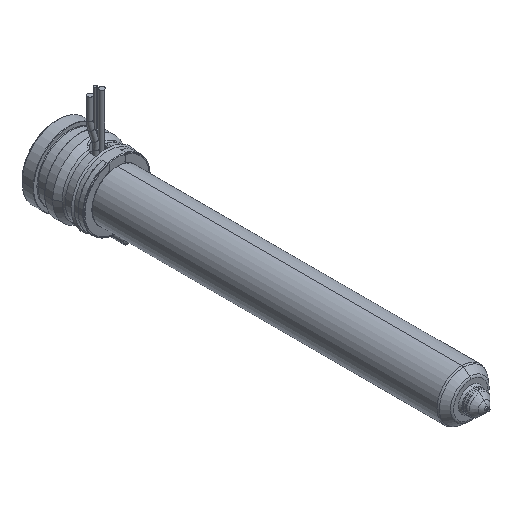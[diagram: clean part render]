
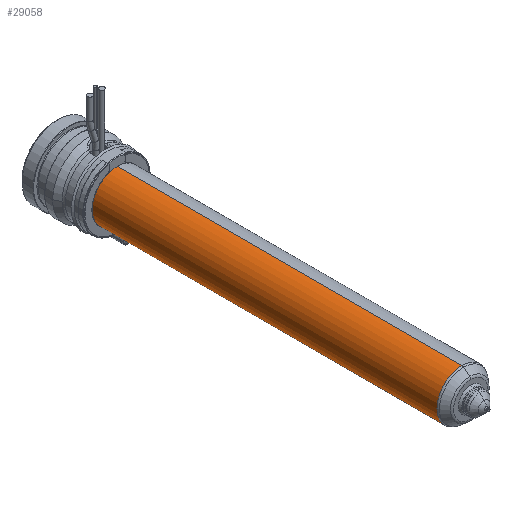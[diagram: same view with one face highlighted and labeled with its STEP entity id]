
A CAD part, isometric view. The second image highlights one B-rep face of the part: STEP entity #29058.
In plain terms, the highlighted cylindrical face has radius 9 mm (diameter 18 mm), a partial arc.
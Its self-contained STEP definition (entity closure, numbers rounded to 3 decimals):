
#28447=CARTESIAN_POINT('',(0.,-145.836,0.));
#28448=DIRECTION('',(0.,-1.,0.));
#28449=DIRECTION('',(0.,0.,1.));
#28450=AXIS2_PLACEMENT_3D('',#28447,#28448,#28449);
#28455=CARTESIAN_POINT('',(0.,-22.,0.));
#28456=DIRECTION('',(0.,-1.,0.));
#28457=DIRECTION('',(0.,0.,1.));
#28458=AXIS2_PLACEMENT_3D('',#28455,#28456,#28457);
#28463=DIRECTION('',(0.,-1.,0.));
#28464=VECTOR('',#28463,123.836);
#28465=CARTESIAN_POINT('',(0.,-22.,9.));
#28466=LINE('',#28465,#28464);
#28478=DIRECTION('',(0.,-1.,0.));
#28479=VECTOR('',#28478,123.836);
#28480=CARTESIAN_POINT('',(0.,-22.,-9.));
#28481=LINE('',#28480,#28479);
#28675=CARTESIAN_POINT('',(0.,-22.,9.));
#28676=CARTESIAN_POINT('',(0.,-145.836,9.));
#28677=VERTEX_POINT('',#28675);
#28678=VERTEX_POINT('',#28676);
#28701=CARTESIAN_POINT('',(0.,-22.,-9.));
#28702=CARTESIAN_POINT('',(0.,-145.836,-9.));
#28703=VERTEX_POINT('',#28701);
#28704=VERTEX_POINT('',#28702);
#29044=CARTESIAN_POINT('',(0.,-11.125,0.));
#29045=DIRECTION('',(0.,-1.,0.));
#29046=DIRECTION('',(0.,0.,1.));
#29047=AXIS2_PLACEMENT_3D('',#29044,#29045,#29046);
#29048=CYLINDRICAL_SURFACE('',#29047,9.);
#29050=ORIENTED_EDGE('',*,*,#29049,.T.);
#29051=ORIENTED_EDGE('',*,*,#29039,.T.);
#29053=ORIENTED_EDGE('',*,*,#29052,.F.);
#29055=ORIENTED_EDGE('',*,*,#29054,.F.);
#29056=EDGE_LOOP('',(#29050,#29051,#29053,#29055));
#29057=FACE_OUTER_BOUND('',#29056,.F.);
#29058=ADVANCED_FACE('',(#29057),#29048,.T.);
#28451=CIRCLE('',#28450,9.);
#28459=CIRCLE('',#28458,9.);
#29039=EDGE_CURVE('',#28678,#28704,#28451,.T.);
#29049=EDGE_CURVE('',#28677,#28678,#28466,.T.);
#29052=EDGE_CURVE('',#28703,#28704,#28481,.T.);
#29054=EDGE_CURVE('',#28677,#28703,#28459,.T.);
